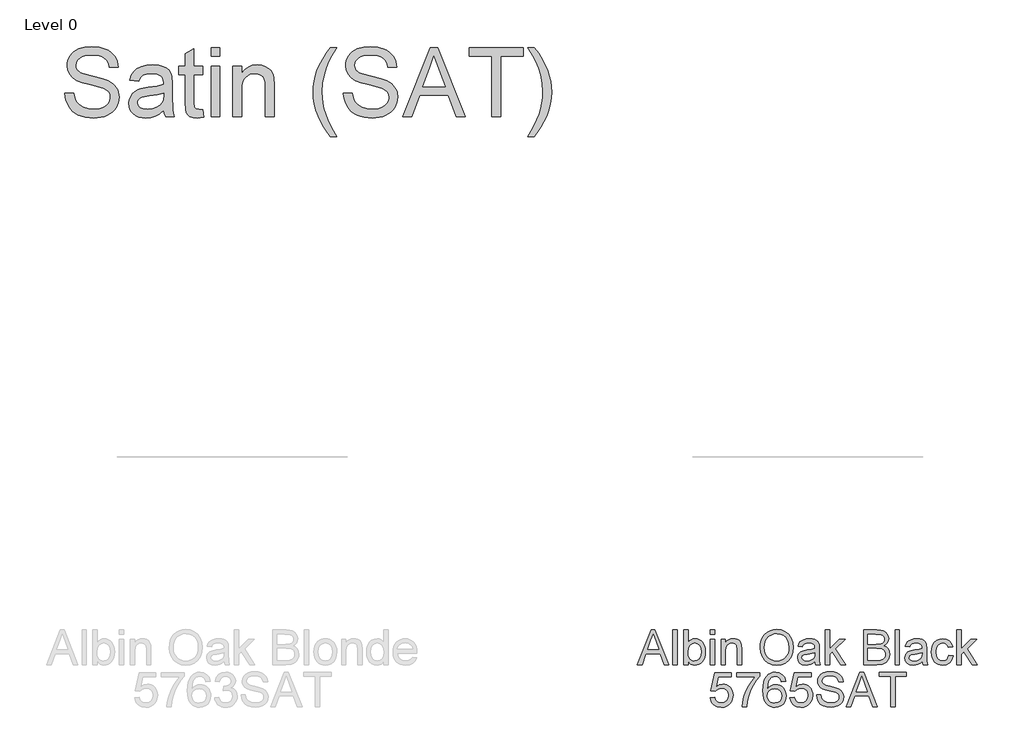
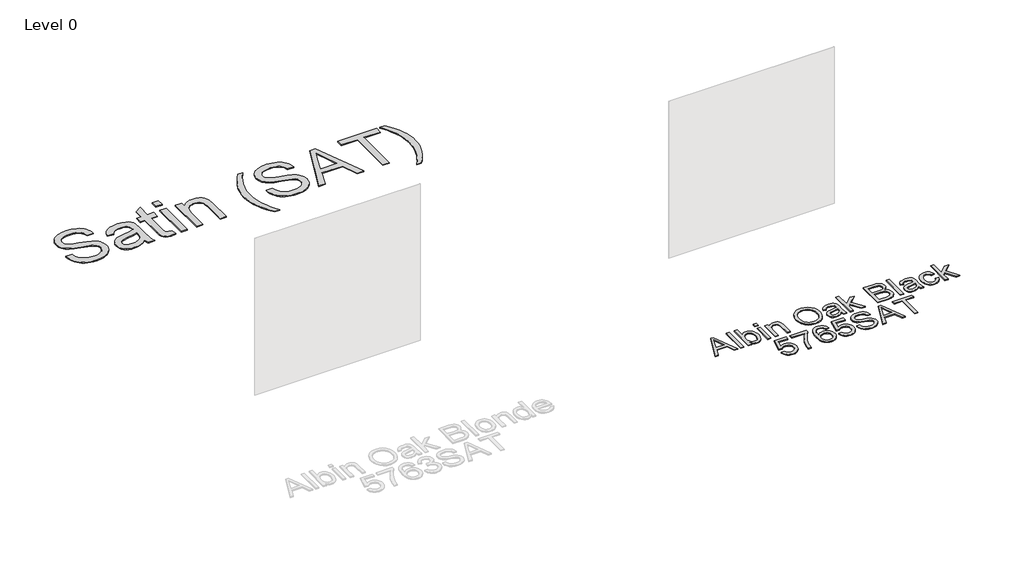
# One storey, part 8 of 43: 2 proxies.
"""IFC4 building model written with IfcOpenShell, lengths in millimetres."""

from ifc_helpers import new_model, si_unit, origin, origin_with_axes, place, context, project, spatial, polyline, outline, extrude, element, save

model = new_model("IFC4")

# Units and contexts
model_context = context("Model", 3, world=origin())
ifc_project = project(units=[si_unit("LENGTHUNIT", "METRE", prefix="MILLI")], contexts=[model_context])

# Site, building, storey
site = spatial("IfcSite", under=ifc_project)
building = spatial("IfcBuilding", under=site)
storey = spatial("IfcBuildingStorey", under=building, Name="Level 0", Elevation=0.0)

# Proxies
placement = place(None, origin())
element("IfcBuildingElementProxy", 1, Name="300mm Arial", ObjectType="300mm Arial", at=placement, inside=storey, context=model_context, shape_type="SweptSolid", body=[
    extrude(outline(polyline([(-5931.3830869, -27017.4454346), (-5811.0856745, -26716.0765041), (-5779.0063645, -26716.0765041), (-5658.7089521, -27017.4454346), (-5698.5137839, -27017.4454346), (-5733.0211151, -26923.2676438), (-5857.1445003, -26923.2676438), (-5891.578255, -27017.4454346), (-5931.3830869, -27017.4454346)]), holes=[polyline([(-5843.3121372, -26885.5965275), (-5746.7799017, -26885.5965275), (-5773.929593, -26811.5050937), (-5795.0460195, -26753.7476204), (-5813.8080012, -26805.0303705), (-5843.3121372, -26885.5965275)])]), origin_with_axes(), (0.0, 0.0, 1.0), 10.0),
    extrude(outline(polyline([(-5623.1715513, -27017.4454346), (-5623.1715513, -26716.0765041), (-5585.500435, -26716.0765041), (-5585.500435, -27017.4454346), (-5623.1715513, -27017.4454346)])), origin_with_axes(), (0.0, 0.0, 1.0), 10.0),
    extrude(outline(polyline([(-5491.3226443, -27017.4454346), (-5528.9937606, -27017.4454346), (-5528.9937606, -26716.0765041), (-5491.3226443, -26716.0765041), (-5491.3226443, -26827.8390542), (-5478.9342181, -26811.9051653), (-5464.9455052, -26800.5238161), (-5449.3565057, -26793.6950066), (-5432.1672194, -26791.4187367), (-5412.7614442, -26793.4696788), (-5394.4225267, -26799.6225052), (-5378.1989307, -26809.4909397), (-5365.1391199, -26822.6887063), (-5354.9028034, -26839.0870462), (-5347.1496904, -26858.5572008), (-5342.2660569, -26880.2898297), (-5340.638179, -26903.4755924), (-5342.3235384, -26930.2298105), (-5347.3796166, -26953.7650612), (-5355.8064136, -26974.0813444), (-5367.6039293, -26991.1786601), (-5381.7650868, -27004.7305131), (-5397.2828092, -27014.4104081), (-5414.1570965, -27020.2183451), (-5432.3879486, -27022.1543241), (-5450.1428534, -27019.657325), (-5465.8836043, -27012.1663279), (-5479.6102012, -26999.6813327), (-5491.3226443, -26982.2023394), (-5491.3226443, -27017.4454346)]), holes=[polyline([(-5491.3226443, -26905.241426), (-5488.7474703, -26936.6585484), (-5481.0219484, -26957.9221277), (-5471.8938764, -26969.5426003), (-5461.2850794, -26977.8429378), (-5449.1955573, -26982.8231403), (-5435.6253102, -26984.4832078), (-5413.8834843, -26979.5903772), (-5395.3054435, -26964.9118856), (-5382.5583324, -26940.5397035), (-5378.3092953, -26906.5658012), (-5382.3835884, -26872.0952583), (-5394.6064677, -26847.9989876), (-5412.6050943, -26833.8171367), (-5434.0066294, -26829.089853), (-5455.7484553, -26833.9826836), (-5474.3264961, -26848.6611752), (-5487.0736072, -26872.591899), (-5491.3226443, -26905.241426)])]), origin_with_axes(), (0.0, 0.0, 1.0), 10.0),
    extrude(outline(polyline([(-5298.2581732, -26753.7476204), (-5298.2581732, -26716.0765041), (-5260.5870569, -26716.0765041), (-5260.5870569, -26753.7476204), (-5298.2581732, -26753.7476204)])), origin_with_axes(), (0.0, 0.0, 1.0), 10.0),
    extrude(outline(polyline([(-5298.2581732, -27017.4454346), (-5298.2581732, -26796.1276263), (-5260.5870569, -26796.1276263), (-5260.5870569, -27017.4454346), (-5298.2581732, -27017.4454346)])), origin_with_axes(), (0.0, 0.0, 1.0), 10.0),
    extrude(outline(polyline([(-5204.0803824, -27017.4454346), (-5204.0803824, -26796.1276263), (-5166.4092661, -26796.1276263), (-5166.4092661, -26827.0297138), (-5153.3218641, -26811.4499114), (-5137.6041059, -26800.321481), (-5119.2559914, -26793.6444228), (-5098.2775206, -26791.4187367), (-5079.7086769, -26793.2121614), (-5062.7033317, -26798.5924356), (-5048.5214808, -26806.8881746), (-5038.42312, -26817.4279938), (-5027.1291427, -26845.129508), (-5025.14258, -26881.5498255), (-5025.14258, -27017.4454346), (-5062.8136963, -27017.4454346), (-5062.8136963, -26886.6265971), (-5067.1547038, -26853.2964883), (-5073.1603774, -26843.3728715), (-5082.495383, -26835.6749407), (-5094.4607449, -26830.7361249), (-5108.3574873, -26829.089853), (-5130.4212099, -26832.7870671), (-5149.2291769, -26843.8787092), (-5156.745466, -26852.9332048), (-5162.1142438, -26865.3078354), (-5166.4092661, -26900.0175017), (-5166.4092661, -27017.4454346), (-5204.0803824, -27017.4454346)])), origin_with_axes(), (0.0, 0.0, 1.0), 10.0),
    extrude(outline(polyline([(-4865.0403357, -26870.7340949), (-4862.5295411, -26835.3852337), (-4854.9971572, -26804.0922714), (-4842.4431841, -26776.8552082), (-4824.8676218, -26753.674044), (-4803.3235325, -26735.1649811), (-4778.8639783, -26721.9442219), (-4751.4889593, -26714.0117664), (-4721.1984756, -26711.3676146), (-4681.6695552, -26716.3340215), (-4646.2241249, -26731.2332423), (-4616.7935653, -26755.0168133), (-4595.3092568, -26786.6362708), (-4582.1758696, -26824.5649045), (-4577.7980738, -26867.2760041), (-4582.4057958, -26910.5573209), (-4596.2289618, -26949.0193834), (-4618.5042166, -26980.6940232), (-4648.4682051, -27003.6130715), (-4683.6101327, -27017.519011), (-4721.4192048, -27022.1543241), (-4761.5551304, -27017.0315673), (-4797.2028958, -27001.663297), (-4826.559879, -26977.4382676), (-4847.8234583, -26945.7452337), (-4860.7361163, -26909.2789309), (-4865.0403357, -26870.7340949)]), holes=[polyline([(-4827.3692194, -26871.1019769), (-4825.4861234, -26896.0765658), (-4819.8368355, -26918.2460546), (-4810.4213557, -26937.6104431), (-4797.239684, -26954.1697314), (-4781.2161238, -26967.4318773), (-4763.2749788, -26976.9048387), (-4743.4162488, -26982.5886155), (-4721.639934, -26984.4832078), (-4699.4911386, -26982.5702214), (-4679.3978839, -26976.8312623), (-4661.3601698, -26967.2663304), (-4645.3779964, -26953.8754258), (-4632.2928936, -26936.9666496), (-4622.9463917, -26916.848103), (-4617.3384905, -26893.519786), (-4615.4691901, -26866.9816985), (-4618.6697635, -26833.6331957), (-4628.2714836, -26804.8096413), (-4644.02603, -26781.2376025), (-4665.6850825, -26763.6436461), (-4691.8139012, -26752.6899597), (-4720.9777464, -26749.0387309), (-4741.9976039, -26750.7976667), (-4761.4999481, -26756.074474), (-4779.4847792, -26764.869153), (-4795.952097, -26777.1817035), (-4809.697088, -26793.6053353), (-4819.5149388, -26814.7332582), (-4825.4056492, -26840.565472), (-4827.3692194, -26871.1019769)])]), origin_with_axes(), (0.0, 0.0, 1.0), 10.0),
    extrude(outline(polyline([(-4389.4424923, -26989.1920973), (-4407.4411189, -27004.624747), (-4425.9731744, -27014.7231078), (-4445.4617231, -27020.29652), (-4466.3298293, -27022.1543241), (-4497.811331, -27017.6845578), (-4521.033882, -27004.2752591), (-4535.3536886, -26983.9129907), (-4540.1269575, -26958.5843153), (-4538.3243358, -26942.9677246), (-4532.9164704, -26928.7858737), (-4524.5747462, -26916.6457679), (-4513.9705477, -26907.1544124), (-4487.5934086, -26894.7935774), (-4454.9990639, -26889.1281946), (-4416.481819, -26883.1685063), (-4389.6632215, -26876.1787484), (-4389.4424923, -26867.7910389), (-4392.0360604, -26850.9788317), (-4399.8167646, -26839.9791601), (-4417.2175829, -26831.8121798), (-4441.4610064, -26829.089853), (-4463.9018081, -26830.9016718), (-4479.5735811, -26836.3371283), (-4490.2605531, -26846.3895038), (-4497.7469517, -26862.0520798), (-4535.418068, -26857.3431903), (-4528.8789655, -26836.7417985), (-4519.1208956, -26820.5549907), (-4505.2333503, -26808.1757616), (-4486.3058216, -26798.9971058), (-4463.1568471, -26793.313329), (-4436.6049641, -26791.4187367), (-4411.138333, -26793.0925998), (-4390.9508085, -26798.114189), (-4375.7296909, -26805.664967), (-4365.1622806, -26814.9263962), (-4358.1541286, -26826.3767233), (-4353.610786, -26840.4941949), (-4351.771376, -26873.4564216), (-4351.771376, -26920.3245878), (-4349.8583896, -26985.7707948), (-4342.3535969, -27017.4454346), (-4380.0247132, -27017.4454346), (-4389.4424923, -26989.1920973)]), holes=[polyline([(-4389.4424923, -26913.8498647), (-4450.2165979, -26925.4013594), (-4482.6270017, -26931.5082005), (-4497.3054933, -26941.4410143), (-4502.4558412, -26955.935565), (-4499.650741, -26967.1375717), (-4491.2354404, -26976.3162275), (-4477.3938803, -26982.4414627), (-4458.3100018, -26984.4832078), (-4438.0764921, -26982.2299306), (-4420.1974271, -26975.4700989), (-4405.7028765, -26965.5096939), (-4395.6229098, -26953.6546966), (-4391.1531436, -26941.4410143), (-4389.6632215, -26924.5184426), (-4389.4424923, -26913.8498647)])]), origin_with_axes(), (0.0, 0.0, 1.0), 10.0),
    extrude(outline(polyline([(-4299.9735911, -27017.4454346), (-4299.9735911, -26716.0765041), (-4262.3024748, -26716.0765041), (-4262.3024748, -26878.0181584), (-4177.8367687, -26796.1276263), (-4125.7446782, -26796.1276263), (-4211.2404538, -26879.048228), (-4121.0357886, -27017.4454346), (-4165.0344753, -27017.4454346), (-4238.2429923, -26905.241426), (-4262.3024748, -26928.5651445), (-4262.3024748, -27017.4454346), (-4299.9735911, -27017.4454346)])), origin_with_axes(), (0.0, 0.0, 1.0), 10.0),
    extrude(outline(polyline([(-3965.6424339, -27017.4454346), (-3965.6424339, -26716.0765041), (-3850.6425222, -26716.0765041), (-3819.0138676, -26718.2929931), (-3794.3197887, -26724.9424602), (-3775.3922601, -26736.1904522), (-3761.0632563, -26752.202516), (-3752.0409504, -26771.0380742), (-3749.0335151, -26790.7565491), (-3751.5627038, -26808.9023285), (-3759.15027, -26825.9628561), (-3771.8513959, -26840.889668), (-3789.7212638, -26852.6343007), (-3768.374911, -26863.7811252), (-3752.6019705, -26880.7404851), (-3742.8622946, -26902.3903406), (-3739.615736, -26927.6086513), (-3741.8322251, -26948.6239103), (-3748.4816921, -26968.112459), (-3758.4053089, -26984.6855429), (-3770.4442472, -26996.9544074), (-3785.1871182, -27005.8387576), (-3803.222533, -27012.2582984), (-3851.525439, -27017.4454346), (-3965.6424339, -27017.4454346)]), holes=[polyline([(-3927.9713176, -26838.5076321), (-3859.1773845, -26838.5076321), (-3819.0046706, -26835.2702705), (-3804.9423813, -26829.6876613), (-3794.8348235, -26821.3275429), (-3788.7371794, -26810.3186742), (-3786.7046314, -26796.7898138), (-3788.5992237, -26783.6564266), (-3794.2830005, -26772.2152966), (-3803.4984445, -26763.2849611), (-3815.9880382, -26757.6839578), (-3864.4013088, -26753.7476204), (-3927.9713176, -26753.7476204), (-3927.9713176, -26838.5076321)]), polyline([(-3927.9713176, -26979.7743182), (-3850.7160986, -26979.7743182), (-3822.7570669, -26978.3027903), (-3799.1022546, -26970.0990218), (-3783.4304817, -26953.360391), (-3778.8227597, -26941.5329848), (-3777.2868523, -26927.9765333), (-3779.0894741, -26912.2311839), (-3784.4973394, -26898.6931265), (-3793.9427097, -26888.1073221), (-3807.8578461, -26881.2187317), (-3827.567124, -26877.4387442), (-3854.3949185, -26876.1787484), (-3927.9713176, -26876.1787484), (-3927.9713176, -26979.7743182)])]), origin_with_axes(), (0.0, 0.0, 1.0), 10.0),
    extrude(outline(polyline([(-3692.5268406, -27017.4454346), (-3692.5268406, -26716.0765041), (-3654.8557243, -26716.0765041), (-3654.8557243, -27017.4454346), (-3692.5268406, -27017.4454346)])), origin_with_axes(), (0.0, 0.0, 1.0), 10.0),
    extrude(outline(polyline([(-3457.0823637, -26989.1920973), (-3475.0809903, -27004.624747), (-3493.6130459, -27014.7231078), (-3513.1015945, -27020.29652), (-3533.9697007, -27022.1543241), (-3565.4512025, -27017.6845578), (-3588.6737534, -27004.2752591), (-3602.9935601, -26983.9129907), (-3607.766829, -26958.5843153), (-3605.9642072, -26942.9677246), (-3600.5563419, -26928.7858737), (-3592.2146176, -26916.6457679), (-3581.6104191, -26907.1544124), (-3555.23328, -26894.7935774), (-3522.6389353, -26889.1281946), (-3484.1216904, -26883.1685063), (-3457.3030929, -26876.1787484), (-3457.0823637, -26867.7910389), (-3459.6759318, -26850.9788317), (-3467.456636, -26839.9791601), (-3484.8574544, -26831.8121798), (-3509.1008779, -26829.089853), (-3531.5416796, -26830.9016718), (-3547.2134526, -26836.3371283), (-3557.9004245, -26846.3895038), (-3565.3868231, -26862.0520798), (-3603.0579394, -26857.3431903), (-3596.518837, -26836.7417985), (-3586.760767, -26820.5549907), (-3572.8732217, -26808.1757616), (-3553.9456931, -26798.9971058), (-3530.7967185, -26793.313329), (-3504.2448355, -26791.4187367), (-3478.7782044, -26793.0925998), (-3458.5906799, -26798.114189), (-3443.3695624, -26805.664967), (-3432.8021521, -26814.9263962), (-3425.794, -26826.3767233), (-3421.2506574, -26840.4941949), (-3419.4112474, -26873.4564216), (-3419.4112474, -26920.3245878), (-3417.4982611, -26985.7707948), (-3409.9934684, -27017.4454346), (-3447.6645847, -27017.4454346), (-3457.0823637, -26989.1920973)]), holes=[polyline([(-3457.0823637, -26913.8498647), (-3517.8564693, -26925.4013594), (-3550.2668731, -26931.5082005), (-3564.9453647, -26941.4410143), (-3570.0957127, -26955.935565), (-3567.2906124, -26967.1375717), (-3558.8753118, -26976.3162275), (-3545.0337517, -26982.4414627), (-3525.9498732, -26984.4832078), (-3505.7163635, -26982.2299306), (-3487.8372985, -26975.4700989), (-3473.3427479, -26965.5096939), (-3463.2627813, -26953.6546966), (-3458.793015, -26941.4410143), (-3457.3030929, -26924.5184426), (-3457.0823637, -26913.8498647)])]), origin_with_axes(), (0.0, 0.0, 1.0), 10.0),
    extrude(outline(polyline([(-3226.3467764, -26937.3943124), (-3188.6756601, -26942.1032019), (-3199.178691, -26975.6080546), (-3218.9155601, -27000.927533), (-3246.0284631, -27016.8476263), (-3278.6595961, -27022.1543241), (-3299.7875189, -27020.3034178), (-3318.7311424, -27014.7506989), (-3335.4904665, -27005.4961675), (-3350.0654913, -26992.5398235), (-3361.8630071, -26976.1253887), (-3370.289804, -26956.496585), (-3375.3458822, -26933.6534124), (-3377.0312416, -26907.5958708), (-3374.152565, -26874.072624), (-3365.5165351, -26845.0191434), (-3350.9851963, -26821.5574692), (-3330.4205928, -26804.8096413), (-3305.8184844, -26794.7664629), (-3279.1746309, -26791.4187367), (-3247.3436412, -26796.0172617), (-3221.8954042, -26809.8128365), (-3203.6392602, -26832.0696972), (-3193.3845496, -26862.0520798), (-3231.0556659, -26866.7609693), (-3237.889074, -26850.3258412), (-3248.5300607, -26838.5444203), (-3262.3900148, -26831.4534948), (-3278.8803253, -26829.089853), (-3303.2249163, -26833.7435603), (-3322.5479181, -26847.704682), (-3335.1570735, -26871.7273763), (-3339.3601253, -26906.5658012), (-3335.249044, -26941.8732757), (-3322.9158001, -26965.9787434), (-3303.9422862, -26979.8570917), (-3279.9103949, -26984.4832078), (-3260.4034521, -26981.5953341), (-3244.4097823, -26972.9317131), (-3232.7755142, -26958.2716156), (-3226.3467764, -26937.3943124)])), origin_with_axes(), (0.0, 0.0, 1.0), 10.0),
    extrude(outline(polyline([(-3155.7134333, -27017.4454346), (-3155.7134333, -26716.0765041), (-3118.042317, -26716.0765041), (-3118.042317, -26878.0181584), (-3033.5766109, -26796.1276263), (-2981.4845204, -26796.1276263), (-3066.980296, -26879.048228), (-2976.7756308, -27017.4454346), (-3020.7743175, -27017.4454346), (-3093.9828345, -26905.241426), (-3118.042317, -26928.5651445), (-3118.042317, -27017.4454346), (-3155.7134333, -27017.4454346)])), origin_with_axes(), (0.0, 0.0, 1.0), 10.0),
    extrude(outline(polyline([(-5298.2581732, -27303.3187659), (-5260.5870569, -27298.6098764), (-5253.6708754, -27321.2254221), (-5241.6043459, -27337.4214269), (-5224.4426509, -27347.1611027), (-5202.2409725, -27350.4076613), (-5175.238434, -27345.8919098), (-5155.0049243, -27332.3446554), (-5142.3681777, -27311.3293964), (-5138.1559289, -27284.4096314), (-5142.1014633, -27259.0625619), (-5153.9380665, -27239.6751808), (-5173.757709, -27227.369528), (-5201.6523613, -27223.2676438), (-5219.9268994, -27224.9047187), (-5234.7249526, -27229.8159433), (-5255.8781674, -27246.8120915), (-5293.5492837, -27242.1032019), (-5260.5870569, -27086.7098472), (-5114.6114812, -27086.7098472), (-5114.6114812, -27124.3809635), (-5230.1264277, -27124.3809635), (-5246.2396591, -27207.3751416), (-5219.3290911, -27191.041181), (-5191.1309362, -27185.5965275), (-5172.785121, -27187.2841861), (-5155.9338263, -27192.3471621), (-5140.5770523, -27200.7854554), (-5126.7147988, -27212.5990659), (-5115.2391799, -27227.0660254), (-5107.0423092, -27243.4643653), (-5102.1241867, -27261.7940857), (-5100.4848126, -27282.0551866), (-5106.3893186, -27319.7263029), (-5113.7699511, -27336.520116), (-5124.1028367, -27351.9527657), (-5139.7562156, -27367.7578959), (-5158.0215566, -27379.0472746), (-5178.8988599, -27385.8209019), (-5202.3881253, -27388.0787776), (-5239.3878569, -27382.2754392), (-5255.0665277, -27375.0212661), (-5268.8644018, -27364.8654237), (-5280.3446193, -27352.3137499), (-5289.0703204, -27337.8720823), (-5298.2581732, -27303.3187659)])), origin_with_axes(), (0.0, 0.0, 1.0), 10.0),
    extrude(outline(polyline([(-5067.5225858, -27124.3809635), (-5067.5225858, -27086.7098472), (-4869.7492252, -27086.7098472), (-4869.7492252, -27117.1704764), (-4897.9381831, -27152.8458329), (-4925.8512295, -27198.2148799), (-4950.471732, -27249.1389451), (-4968.7830583, -27301.479356), (-4977.759379, -27340.6403943), (-4982.7625741, -27383.3698881), (-5020.4336904, -27383.3698881), (-5016.3593973, -27344.5399435), (-5005.4608932, -27298.3891472), (-4988.0324837, -27249.4700389), (-4964.3684744, -27202.3351583), (-4936.7405365, -27159.7252262), (-4907.4203415, -27124.3809635), (-5067.5225858, -27124.3809635)])), origin_with_axes(), (0.0, 0.0, 1.0), 10.0),
    extrude(outline(polyline([(-4643.7225274, -27162.0520798), (-4681.3936437, -27166.7609693), (-4687.4636966, -27148.0909581), (-4695.6674651, -27135.3438469), (-4712.7555838, -27123.5900172), (-4733.4121578, -27119.6720739), (-4750.9233408, -27121.9529423), (-4767.4044542, -27128.7955474), (-4781.5587139, -27143.2073246), (-4793.1194056, -27163.0453612), (-4800.927701, -27191.1055604), (-4803.8247717, -27230.1838253), (-4788.7140187, -27212.5530807), (-4770.6050275, -27200.1278663), (-4750.5094735, -27192.7610293), (-4729.4390323, -27190.305417), (-4711.3392381, -27191.9838786), (-4694.6373955, -27197.0192634), (-4679.3335045, -27205.4115714), (-4665.4275651, -27217.1608027), (-4653.8714719, -27231.5679813), (-4645.6171197, -27247.9341316), (-4640.6645083, -27266.2592534), (-4639.0136378, -27286.543347), (-4642.1222407, -27313.5182943), (-4651.4480493, -27338.5250729), (-4666.2185114, -27359.7334699), (-4685.6610748, -27375.3132724), (-4708.8928228, -27384.8874013), (-4735.0308386, -27388.0787776), (-4757.4877351, -27385.9634562), (-4777.7695294, -27379.6174917), (-4795.8762213, -27369.0408844), (-4811.807811, -27354.2336341), (-4824.7963447, -27334.5703414), (-4834.0738687, -27309.4256071), (-4839.6403832, -27278.799431), (-4841.495888, -27242.6918131), (-4839.4357488, -27202.2109981), (-4833.2553313, -27167.6622802), (-4822.9546354, -27139.0456595), (-4808.5336612, -27116.361136), (-4792.9032749, -27101.328558), (-4774.7804882, -27090.5910022), (-4754.1653009, -27084.1484688), (-4731.057713, -27082.0009576), (-4698.0035158, -27087.3168525), (-4671.5344062, -27103.264537), (-4652.9931537, -27128.5932123), (-4643.7225274, -27162.0520798)]), holes=[polyline([(-4803.8247717, -27285.9547358), (-4801.6450709, -27302.6473813), (-4795.1059684, -27318.5858687), (-4784.9524253, -27332.2894731), (-4771.9294027, -27342.2774692), (-4756.2116445, -27348.3751133), (-4737.9738945, -27350.4076613), (-4713.1142687, -27346.1954125), (-4693.5705377, -27333.5586659), (-4680.9062, -27313.6930382), (-4676.6847541, -27287.7941457), (-4680.8510177, -27262.9345199), (-4693.3498085, -27243.9794001), (-4713.2246333, -27231.97725), (-4739.5189989, -27227.9765333), (-4764.3418365, -27231.97725), (-4785.0995781, -27243.9794001), (-4799.1434733, -27262.4746674), (-4803.8247717, -27285.9547358)])]), origin_with_axes(), (0.0, 0.0, 1.0), 10.0),
    extrude(outline(polyline([(-4606.0514111, -27303.3187659), (-4568.3802948, -27298.6098764), (-4561.4641133, -27321.2254221), (-4549.3975838, -27337.4214269), (-4532.2358887, -27347.1611027), (-4510.0342103, -27350.4076613), (-4483.0316719, -27345.8919098), (-4462.7981621, -27332.3446554), (-4450.1614156, -27311.3293964), (-4445.9491668, -27284.4096314), (-4449.8947012, -27259.0625619), (-4461.7313044, -27239.6751808), (-4481.5509469, -27227.369528), (-4509.4455991, -27223.2676438), (-4527.7201372, -27224.9047187), (-4542.5181905, -27229.8159433), (-4563.6714052, -27246.8120915), (-4601.3425215, -27242.1032019), (-4568.3802948, -27086.7098472), (-4422.4047191, -27086.7098472), (-4422.4047191, -27124.3809635), (-4537.9196656, -27124.3809635), (-4554.032897, -27207.3751416), (-4527.122329, -27191.041181), (-4498.9241741, -27185.5965275), (-4480.5783588, -27187.2841861), (-4463.7270642, -27192.3471621), (-4448.3702901, -27200.7854554), (-4434.5080367, -27212.5990659), (-4423.0324177, -27227.0660254), (-4414.835547, -27243.4643653), (-4409.9174246, -27261.7940857), (-4408.2780505, -27282.0551866), (-4414.1825565, -27319.7263029), (-4421.563189, -27336.520116), (-4431.8960746, -27351.9527657), (-4447.5494534, -27367.7578959), (-4465.8147945, -27379.0472746), (-4486.6920977, -27385.8209019), (-4510.1813631, -27388.0787776), (-4547.1810948, -27382.2754392), (-4562.8597656, -27375.0212661), (-4576.6576397, -27364.8654237), (-4588.1378572, -27352.3137499), (-4596.8635582, -27337.8720823), (-4606.0514111, -27303.3187659)])), origin_with_axes(), (0.0, 0.0, 1.0), 10.0),
    extrude(outline(polyline([(-4375.3158237, -27279.7743182), (-4337.6447074, -27279.7743182), (-4333.3220939, -27300.6792126), (-4325.5046015, -27317.4822228), (-4313.3093134, -27330.8179451), (-4295.8533127, -27341.320976), (-4274.516157, -27348.13599), (-4250.6774037, -27350.4076613), (-4229.6897359, -27348.687813), (-4211.3140302, -27343.528268), (-4196.4240065, -27335.3612877), (-4185.8933844, -27324.6191335), (-4179.6301934, -27312.2858896), (-4177.5424631, -27299.3456404), (-4179.1059616, -27286.736485), (-4183.796457, -27275.8379809), (-4193.3246007, -27266.5397635), (-4209.4010439, -27258.7314681), (-4264.2522494, -27244.3472821), (-4300.2586996, -27234.8283355), (-4323.2973096, -27225.7692414), (-4342.0500943, -27213.0957066), (-4355.3398314, -27197.7366333), (-4363.2584913, -27180.0231153), (-4365.8980446, -27160.2862462), (-4362.6330919, -27138.2225236), (-4352.8382338, -27117.648723), (-4336.7709877, -27100.2111164), (-4314.6888709, -27087.5559758), (-4288.1829731, -27079.858045), (-4258.844384, -27077.2920681), (-4227.0593796, -27079.9776067), (-4199.2475008, -27088.0342224), (-4176.4020289, -27101.2963683), (-4159.5162453, -27119.5984975), (-4148.8292734, -27141.800176), (-4144.5802363, -27166.7609693), (-4182.2513526, -27166.7609693), (-4189.1675341, -27144.2833794), (-4203.5885083, -27128.0597834), (-4226.1212806, -27118.2373342), (-4257.372856, -27114.9631844), (-4289.3601955, -27118.200546), (-4311.3043565, -27127.9126306), (-4323.9962854, -27142.2048461), (-4328.2269283, -27159.1826002), (-4325.2286901, -27173.6587567), (-4316.2339753, -27185.3022219), (-4294.9703959, -27195.7132823), (-4254.7241057, -27206.345072), (-4213.1902284, -27216.4434328), (-4188.0638882, -27225.2542066), (-4166.5887767, -27238.9210227), (-4151.6067824, -27255.7884122), (-4142.8052057, -27275.672434), (-4139.8713468, -27298.3891472), (-4143.2466641, -27321.6116981), (-4153.372616, -27343.4546916), (-4169.8353353, -27362.2534616), (-4192.2209547, -27376.343342), (-4219.1407197, -27385.1449187), (-4249.2058757, -27388.0787776), (-4286.1136369, -27384.9149925), (-4316.4914927, -27375.423637), (-4340.6889309, -27359.567923), (-4359.0554395, -27337.3110623), (-4370.8460575, -27310.1981592), (-4375.3158237, -27279.7743182)])), origin_with_axes(), (0.0, 0.0, 1.0), 10.0),
    extrude(outline(polyline([(-4118.4606147, -27383.3698881), (-3998.1632022, -27082.0009576), (-3966.0838923, -27082.0009576), (-3845.7864798, -27383.3698881), (-3885.5913117, -27383.3698881), (-3920.0986429, -27289.1920973), (-4044.222028, -27289.1920973), (-4078.6557828, -27383.3698881), (-4118.4606147, -27383.3698881)]), holes=[polyline([(-4030.389665, -27251.520981), (-3933.8574295, -27251.520981), (-3961.0071207, -27177.4295472), (-3982.1235473, -27119.6720739), (-4000.885529, -27170.9548241), (-4030.389665, -27251.520981)])]), origin_with_axes(), (0.0, 0.0, 1.0), 10.0),
    extrude(outline(polyline([(-3730.197957, -27383.3698881), (-3730.197957, -27119.6720739), (-3829.0846373, -27119.6720739), (-3829.0846373, -27082.0009576), (-3593.6401603, -27082.0009576), (-3593.6401603, -27119.6720739), (-3692.5268406, -27119.6720739), (-3692.5268406, -27383.3698881), (-3730.197957, -27383.3698881)])), origin_with_axes(), (0.0, 0.0, 1.0), 10.0),
])
element("IfcBuildingElementProxy", 2, Name="600mm Arial", ObjectType="600mm Arial", at=placement, inside=storey, context=model_context, shape_type="SweptSolid", body=[
    extrude(outline(polyline([(-10905.7165225, -22047.2658482), (-10830.3742899, -22047.2658482), (-10821.729063, -22089.075637), (-10806.0940782, -22122.6816572), (-10781.7035019, -22149.3531019), (-10746.7915006, -22170.3591638), (-10704.1171891, -22183.9891917), (-10656.4396825, -22188.5325344), (-10614.4643469, -22185.0928377), (-10577.7129356, -22174.7737477), (-10547.9328881, -22158.4397872), (-10526.8716438, -22136.9554786), (-10514.3452619, -22112.2889909), (-10510.1698013, -22086.4084925), (-10513.2967982, -22061.1901817), (-10522.6777891, -22039.3931735), (-10541.7340764, -22020.7967387), (-10573.8869628, -22005.180148), (-10683.5893738, -21976.4117759), (-10755.6022743, -21957.3738827), (-10801.6794942, -21939.2556944), (-10839.1850636, -21913.908625), (-10865.7645378, -21883.1904784), (-10881.6018577, -21847.7634422), (-10886.8809643, -21808.2897041), (-10885.248488, -21785.853501), (-10880.3510589, -21764.1622588), (-10872.1886771, -21743.2159777), (-10860.7613427, -21723.0146577), (-10846.1978142, -21704.3814346), (-10828.6268504, -21688.1394445), (-10808.0484513, -21674.2886874), (-10784.4626169, -21662.8291633), (-10731.4508214, -21647.4333018), (-10672.7736431, -21642.3013479), (-10609.2036344, -21647.6724251), (-10553.5798767, -21663.7856564), (-10529.2444827, -21675.7878065), (-10507.8889329, -21690.3099483), (-10489.5132272, -21707.3520817), (-10474.1173657, -21726.9142068), (-10461.82091, -21748.4261065), (-10452.7434218, -21771.3175636), (-10446.884901, -21795.5885783), (-10444.2453477, -21821.2391504), (-10519.5875803, -21821.2391504), (-10524.6275637, -21797.198062), (-10533.4199434, -21776.2839706), (-10545.9647194, -21758.4968761), (-10562.2618918, -21743.8367786), (-10582.6149632, -21732.3772544), (-10607.3274362, -21724.1918801), (-10636.3993109, -21719.2806554), (-10669.8305872, -21717.6435805), (-10704.3287213, -21719.2622613), (-10733.8052661, -21724.1183037), (-10758.2602218, -21732.2117075), (-10777.6935881, -21743.542473), (-10792.5008385, -21757.1633039), (-10803.0774458, -21772.126904), (-10809.4234102, -21788.4332735), (-10811.5387317, -21806.0824122), (-10810.0396126, -21821.2667415), (-10805.5422552, -21835.0347252), (-10798.0466595, -21847.3863632), (-10787.5528256, -21858.3216555), (-10771.034924, -21868.6775337), (-10745.025667, -21879.1437764), (-10664.5330864, -21900.4073557), (-10581.4653319, -21920.6040773), (-10531.2126514, -21938.2256248), (-10488.2624284, -21965.5592571), (-10471.6571549, -21981.6265032), (-10458.2984399, -21999.294036), (-10448.0299337, -22018.469885), (-10440.6952865, -22039.0620797), (-10434.8275686, -22084.4955061), (-10436.5152273, -22108.0629464), (-10441.5782033, -22130.940608), (-10450.0164965, -22153.1284909), (-10461.8301071, -22174.6265949), (-10476.8121013, -22194.6025873), (-10494.7555457, -22212.2241349), (-10515.66044, -22227.4912377), (-10539.5267845, -22240.4038957), (-10565.6602017, -22250.6724019), (-10593.3663145, -22258.0070492), (-10653.4966266, -22263.874767), (-10692.0368641, -22262.2928744), (-10727.3121489, -22257.5471967), (-10759.322481, -22249.6377338), (-10788.0678604, -22238.5644857), (-10813.7230311, -22224.3090584), (-10836.4627369, -22206.8530577), (-10856.2869779, -22186.1964837), (-10873.1957541, -22162.3393363), (-10886.816585, -22136.0541678), (-10896.77699, -22108.1135302), (-10903.0769692, -22078.5174237), (-10905.7165225, -22047.2658482)])), origin_with_axes(), (0.0, 0.0, 1.0), 10.0),
    extrude(outline(polyline([(-10048.6986265, -22197.9503134), (-10084.6958797, -22228.8156128), (-10121.7599907, -22249.0123344), (-10160.7370881, -22260.1591588), (-10202.4733005, -22263.874767), (-10236.0195399, -22261.6398839), (-10265.436304, -22254.9352345), (-10290.7235926, -22243.7608189), (-10311.8814059, -22228.116637), (-10328.587847, -22208.9959703), (-10340.5210192, -22187.3921002), (-10347.6809225, -22163.3050265), (-10350.067557, -22136.7347494), (-10346.4623134, -22105.5015681), (-10335.6465827, -22077.1378662), (-10318.9631343, -22052.8576545), (-10297.7547372, -22033.8749436), (-10272.8307321, -22019.5275458), (-10245.0004591, -22009.1532735), (-10179.8117696, -21997.8225081), (-10102.7772798, -21985.9031314), (-10049.1400849, -21971.9236156), (-10048.6986265, -21955.1481966), (-10053.8857626, -21921.5237823), (-10060.3696828, -21909.0709767), (-10069.447171, -21899.524439), (-10085.1373381, -21889.9962953), (-10104.2488078, -21883.1904784), (-10152.7356547, -21877.7458248), (-10197.6172582, -21881.3694625), (-10228.9608041, -21892.2403754), (-10250.3347481, -21912.3451265), (-10265.3075453, -21943.6702784), (-10340.6497779, -21934.2524993), (-10327.571573, -21893.0497158), (-10308.0554331, -21860.6761003), (-10280.2803425, -21835.917642), (-10242.4252852, -21817.5603304), (-10196.1273361, -21806.1927768), (-10143.0235701, -21802.4035922), (-10092.0903078, -21805.7513184), (-10051.7152589, -21815.7944968), (-10021.2730238, -21830.8960528), (-10000.1382031, -21849.4189112), (-9986.1218991, -21872.3195654), (-9977.0352138, -21900.5545085), (-9973.3563939, -21966.4789621), (-9973.3563939, -22060.2152944), (-9969.5304211, -22191.1077083), (-9963.8650384, -22223.4629298), (-9954.5208357, -22254.4569879), (-10029.8630684, -22254.4569879), (-10041.9295978, -22228.2637898), (-10048.6986265, -22197.9503134)]), holes=[polyline([(-10048.6986265, -22047.2658482), (-10099.319189, -22059.8106243), (-10170.2468377, -22070.3688375), (-10235.0676453, -22082.5825198), (-10251.9350347, -22090.933441), (-10264.4246285, -22102.4481475), (-10272.1501504, -22116.2437223), (-10274.7253243, -22131.4372487), (-10269.1151239, -22153.8412622), (-10252.2845226, -22172.1985738), (-10224.6014025, -22184.4490442), (-10186.4336455, -22188.5325344), (-10145.966626, -22184.0259799), (-10110.2084961, -22170.5063166), (-10081.2193949, -22150.5855066), (-10061.0594615, -22126.875512), (-10052.1199291, -22102.4481475), (-10049.1400849, -22068.6030039), (-10048.6986265, -22047.2658482)])]), origin_with_axes(), (0.0, 0.0, 1.0), 10.0),
    extrude(outline(polyline([(-9709.6585798, -22191.6227431), (-9700.2408007, -22256.6642799), (-9756.6003223, -22263.874767), (-9792.7631225, -22260.74777), (-9819.7288727, -22251.3667791), (-9838.7851601, -22236.9090167), (-9851.2195715, -22218.5517052), (-9858.0621766, -22187.0242182), (-9860.343045, -22133.0559295), (-9860.343045, -21887.1636039), (-9916.8497194, -21887.1636039), (-9916.8497194, -21811.8213713), (-9860.343045, -21811.8213713), (-9860.343045, -21704.2526759), (-9785.0008124, -21659.9596837), (-9785.0008124, -21811.8213713), (-9709.6585798, -21811.8213713), (-9709.6585798, -21887.1636039), (-9785.0008124, -21887.1636039), (-9785.0008124, -22130.8486375), (-9781.0276868, -22169.6969762), (-9768.151817, -22183.4557628), (-9757.280904, -22187.2633415), (-9742.4736537, -22188.5325344), (-9709.6585798, -22191.6227431)])), origin_with_axes(), (0.0, 0.0, 1.0), 10.0),
    extrude(outline(polyline([(-9634.3163471, -21727.0613596), (-9634.3163471, -21651.719127), (-9558.9741145, -21651.719127), (-9558.9741145, -21727.0613596), (-9634.3163471, -21727.0613596)])), origin_with_axes(), (0.0, 0.0, 1.0), 10.0),
    extrude(outline(polyline([(-9634.3163471, -22254.4569879), (-9634.3163471, -21811.8213713), (-9558.9741145, -21811.8213713), (-9558.9741145, -22254.4569879), (-9634.3163471, -22254.4569879)])), origin_with_axes(), (0.0, 0.0, 1.0), 10.0),
    extrude(outline(polyline([(-9445.9607656, -22254.4569879), (-9445.9607656, -21811.8213713), (-9370.618533, -21811.8213713), (-9370.618533, -21873.6255465), (-9344.443729, -21842.4659415), (-9313.0082126, -21820.2090808), (-9276.3119835, -21806.8549644), (-9234.355042, -21802.4035922), (-9197.2173546, -21805.9904417), (-9163.2066641, -21816.75099), (-9134.8429623, -21833.342468), (-9114.6462408, -21854.4221063), (-9100.9426364, -21879.9347227), (-9092.0582862, -21909.8251348), (-9088.0851607, -21982.6657699), (-9088.0851607, -22254.4569879), (-9163.4273933, -22254.4569879), (-9163.4273933, -21992.8193129), (-9165.5978971, -21953.8606096), (-9172.1094084, -21926.1590954), (-9184.1207555, -21906.3118618), (-9202.7907668, -21890.9160003), (-9226.7214906, -21881.0383687), (-9254.5149753, -21877.7458248), (-9277.3926369, -21879.5944319), (-9298.6424206, -21885.1402529), (-9318.2643266, -21894.3832881), (-9336.2583546, -21907.3235372), (-9351.2909327, -21925.4325285), (-9362.0284884, -21950.1817897), (-9368.4710219, -21981.5713209), (-9370.618533, -22019.6011222), (-9370.618533, -22254.4569879), (-9445.9607656, -22254.4569879)])), origin_with_axes(), (0.0, 0.0, 1.0), 10.0),
    extrude(outline(polyline([(-8598.3606487, -22423.9770113), (-8628.7752927, -22384.6228348), (-8656.7435214, -22342.049691), (-8682.2653348, -22296.2575796), (-8705.3407329, -22247.2465008), (-8724.4613996, -22196.1660858), (-8738.1190187, -22144.1659657), (-8746.3135901, -22091.2461407), (-8749.0451139, -22037.4066107), (-8747.0033689, -21990.0877891), (-8740.8781337, -21943.780643), (-8730.6694083, -21898.4851723), (-8716.3771928, -21854.2013771), (-8694.653761, -21803.4152677), (-8667.743193, -21752.7395229), (-8635.6454889, -21702.1741426), (-8598.3606487, -21651.719127), (-8541.8539743, -21651.719127), (-8586.1837547, -21723.3457515), (-8612.3401645, -21771.0600462), (-8636.399647, -21827.7138735), (-8654.7201704, -21886.7221455), (-8668.9572036, -21962.1011663), (-8673.7028813, -22037.8480691), (-8671.6427422, -22086.1463766), (-8665.4623246, -22134.435487), (-8655.1616288, -22182.7154003), (-8640.7406546, -22230.9861166), (-8622.199402, -22279.2476358), (-8599.5378711, -22327.499958), (-8572.7560619, -22375.7430832), (-8541.8539743, -22423.9770113), (-8598.3606487, -22423.9770113)])), origin_with_axes(), (0.0, 0.0, 1.0), 10.0),
    extrude(outline(polyline([(-8485.3472998, -22047.2658482), (-8410.0050672, -22047.2658482), (-8401.3598403, -22089.075637), (-8385.7248555, -22122.6816572), (-8361.3342792, -22149.3531019), (-8326.4222779, -22170.3591638), (-8283.7479664, -22183.9891917), (-8236.0704599, -22188.5325344), (-8194.0951242, -22185.0928377), (-8157.3437129, -22174.7737477), (-8127.5636654, -22158.4397872), (-8106.5024212, -22136.9554786), (-8093.9760392, -22112.2889909), (-8089.8005786, -22086.4084925), (-8092.9275755, -22061.1901817), (-8102.3085664, -22039.3931735), (-8121.3648538, -22020.7967387), (-8153.5177402, -22005.180148), (-8263.2201511, -21976.4117759), (-8335.2330517, -21957.3738827), (-8381.3102716, -21939.2556944), (-8418.815841, -21913.908625), (-8445.3953151, -21883.1904784), (-8461.232635, -21847.7634422), (-8466.5117417, -21808.2897041), (-8464.8792653, -21785.853501), (-8459.9818362, -21764.1622588), (-8451.8194545, -21743.2159777), (-8440.39212, -21723.0146577), (-8425.8285915, -21704.3814346), (-8408.2576277, -21688.1394445), (-8387.6792286, -21674.2886874), (-8364.0933942, -21662.8291633), (-8311.0815987, -21647.4333018), (-8252.4044205, -21642.3013479), (-8188.8344117, -21647.6724251), (-8133.210654, -21663.7856564), (-8108.87526, -21675.7878065), (-8087.5197102, -21690.3099483), (-8069.1440046, -21707.3520817), (-8053.7481431, -21726.9142068), (-8041.4516874, -21748.4261065), (-8032.3741991, -21771.3175636), (-8026.5156784, -21795.5885783), (-8023.8761251, -21821.2391504), (-8099.2183577, -21821.2391504), (-8104.258341, -21797.198062), (-8113.0507207, -21776.2839706), (-8125.5954967, -21758.4968761), (-8141.8926691, -21743.8367786), (-8162.2457405, -21732.3772544), (-8186.9582135, -21724.1918801), (-8216.0300882, -21719.2806554), (-8249.4613645, -21717.6435805), (-8283.9594986, -21719.2622613), (-8313.4360435, -21724.1183037), (-8337.8909991, -21732.2117075), (-8357.3243655, -21743.542473), (-8372.1316158, -21757.1633039), (-8382.7082231, -21772.126904), (-8389.0541876, -21788.4332735), (-8391.169509, -21806.0824122), (-8389.6703899, -21821.2667415), (-8385.1730325, -21835.0347252), (-8377.6774369, -21847.3863632), (-8367.183603, -21858.3216555), (-8350.6657014, -21868.6775337), (-8324.6564443, -21879.1437764), (-8244.1638638, -21900.4073557), (-8161.0961093, -21920.6040773), (-8110.8434287, -21938.2256248), (-8067.8932058, -21965.5592571), (-8051.2879322, -21981.6265032), (-8037.9292173, -21999.294036), (-8027.6607111, -22018.469885), (-8020.3260638, -22039.0620797), (-8014.458346, -22084.4955061), (-8016.1460046, -22108.0629464), (-8021.2089806, -22130.940608), (-8029.6472739, -22153.1284909), (-8041.4608844, -22174.6265949), (-8056.4428787, -22194.6025873), (-8074.386323, -22212.2241349), (-8095.2912174, -22227.4912377), (-8119.1575618, -22240.4038957), (-8145.290979, -22250.6724019), (-8172.9970918, -22258.0070492), (-8233.1274039, -22263.874767), (-8271.6676414, -22262.2928744), (-8306.9429262, -22257.5471967), (-8338.9532583, -22249.6377338), (-8367.6986377, -22238.5644857), (-8393.3538084, -22224.3090584), (-8416.0935142, -22206.8530577), (-8435.9177552, -22186.1964837), (-8452.8265314, -22162.3393363), (-8466.4473623, -22136.0541678), (-8476.4077673, -22108.1135302), (-8482.7077465, -22078.5174237), (-8485.3472998, -22047.2658482)])), origin_with_axes(), (0.0, 0.0, 1.0), 10.0),
    extrude(outline(polyline([(-7971.6368817, -22254.4569879), (-7731.0420569, -21651.719127), (-7666.8834369, -21651.719127), (-7426.2886121, -22254.4569879), (-7505.8982758, -22254.4569879), (-7574.9129381, -22066.1014064), (-7823.1597085, -22066.1014064), (-7892.027218, -22254.4569879), (-7971.6368817, -22254.4569879)]), holes=[polyline([(-7795.4949824, -21990.7591738), (-7602.4305114, -21990.7591738), (-7656.7298939, -21842.5763061), (-7698.9627469, -21727.0613596), (-7736.4867104, -21829.6268599), (-7795.4949824, -21990.7591738)])]), origin_with_axes(), (0.0, 0.0, 1.0), 10.0),
    extrude(outline(polyline([(-7195.1115663, -22254.4569879), (-7195.1115663, -21727.0613596), (-7392.8849269, -21727.0613596), (-7392.8849269, -21651.719127), (-6921.9959731, -21651.719127), (-6921.9959731, -21727.0613596), (-7119.7693337, -21727.0613596), (-7119.7693337, -22254.4569879), (-7195.1115663, -22254.4569879)])), origin_with_axes(), (0.0, 0.0, 1.0), 10.0),
    extrude(outline(polyline([(-6827.8181823, -22423.9770113), (-6884.3248568, -22423.9770113), (-6853.4227692, -22375.7430832), (-6826.64096, -22327.499958), (-6803.979429, -22279.2476358), (-6785.4381765, -22230.9861166), (-6771.0172023, -22182.7154003), (-6760.7165064, -22134.435487), (-6754.5360889, -22086.1463766), (-6752.4759497, -22037.8480691), (-6757.2216275, -21962.6529893), (-6771.4586607, -21888.0465207), (-6789.4480902, -21828.9278841), (-6813.3972081, -21772.2372686), (-6839.6639826, -21724.0079391), (-6884.3248568, -21651.719127), (-6827.8181823, -21651.719127), (-6790.5333421, -21702.1741426), (-6758.435638, -21752.7395229), (-6731.5250701, -21803.4152677), (-6709.8016383, -21854.2013771), (-6695.5094228, -21898.4851723), (-6685.3006974, -21943.780643), (-6679.1754622, -21990.0877891), (-6677.1337171, -22037.4066107), (-6679.8790365, -22091.2461407), (-6688.1149947, -22144.1659657), (-6701.8415916, -22196.1660858), (-6721.0588273, -22247.2465008), (-6744.2032034, -22296.2575796), (-6769.7112212, -22342.049691), (-6797.5828809, -22384.6228348), (-6827.8181823, -22423.9770113)])), origin_with_axes(), (0.0, 0.0, 1.0), 10.0),
])

save(model, "model.ifc")
